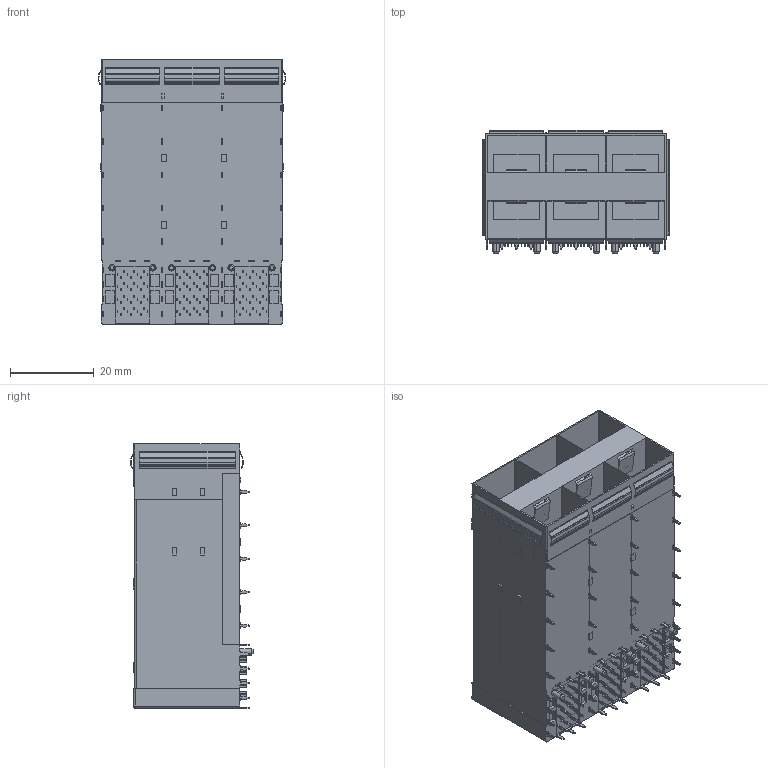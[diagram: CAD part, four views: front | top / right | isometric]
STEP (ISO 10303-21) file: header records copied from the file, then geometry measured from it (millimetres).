
FILE_DESCRIPTION (( 'STEP AP214' ), '1' );
FILE_NAME ('SFP28 2X3 无灯 3D.STEP', '2025-06-12T09:20:13', ( '桑三博客' ), ( 'Www.SangSan.Cn' ), 'SwSTEP 2.0', 'SolidWorks 2018', '' );
FILE_SCHEMA (( 'AUTOMOTIVE_DESIGN' ));
Length unit declared in the file: millimetre
Products named in the file (1): SFP28 2X3 拸腑  3D
Bounding box: 44.81 x 29.38 x 63.25 mm (x, y, z)
Volume: 35218.5 mm3; surface area: 26763.3 mm2
Topology: 1 solids, 1 shells, 2276 faces, 6381 edges, 4316 vertices
Faces by surface type: plane 1569, cylinder 693, cone 12, sphere 2
Entity records: 73383 total; most frequent: CARTESIAN_POINT 12972, ORIENTED_EDGE 12758, DIRECTION 12335, EDGE_CURVE 6379, LINE 4977, VECTOR 4977, VERTEX_POINT 4316, AXIS2_PLACEMENT_3D 3679
